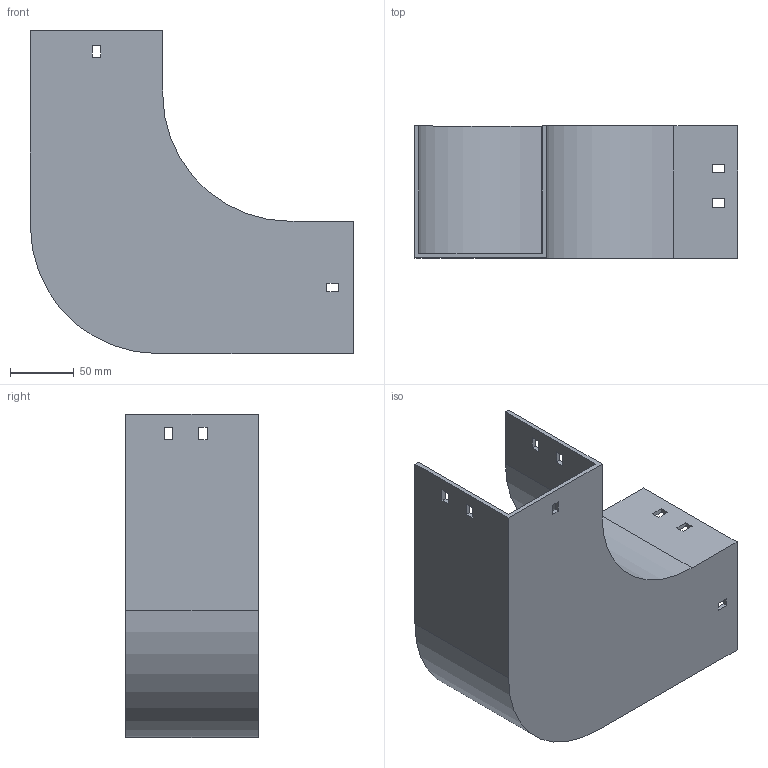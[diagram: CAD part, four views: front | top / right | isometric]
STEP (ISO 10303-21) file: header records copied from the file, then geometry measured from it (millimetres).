
FILE_DESCRIPTION (( 'STEP AP214' ), '1' );
FILE_NAME ('10B1D100.step', '2025-02-21T09:39:28', ( '' ), ( '' ), 'SwSTEP 2.0', 'SolidWorks 2023', '' );
FILE_SCHEMA (( 'AUTOMOTIVE_DESIGN' ));
Length unit declared in the file: millimetre
Products named in the file (1): 10B1D100
Bounding box: 254 x 104 x 254 mm (x, y, z)
Volume: 398706 mm3; surface area: 233663.6 mm2
Topology: 1 solids, 1 shells, 58 faces, 168 edges, 112 vertices
Faces by surface type: plane 54, cylinder 4
Entity records: 1943 total; most frequent: CARTESIAN_POINT 339, ORIENTED_EDGE 336, DIRECTION 294, EDGE_CURVE 168, LINE 160, VECTOR 160, VERTEX_POINT 112, EDGE_LOOP 78
